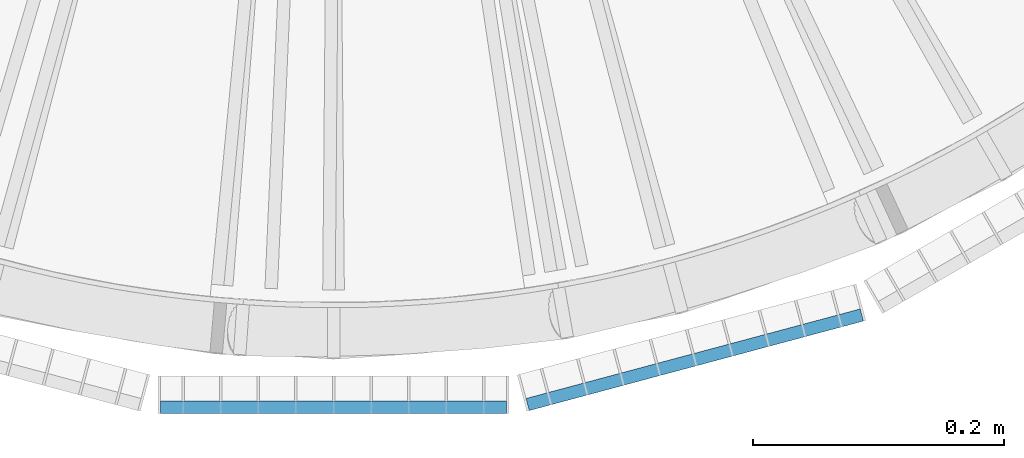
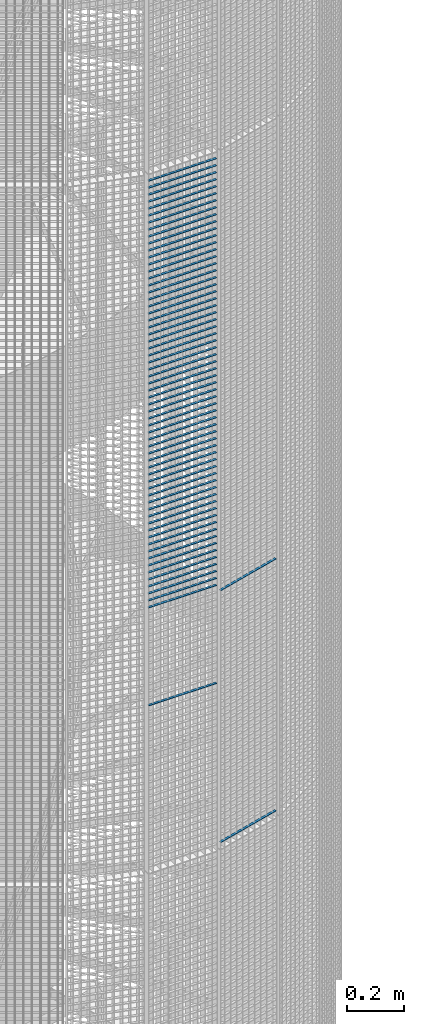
# One storey, part 163 of 1183: 65 beams, 2 elements without a shape of their own.
"""IFC2X3 building model written with IfcOpenShell, lengths in millimetres."""

from ifc_helpers import new_model, si_unit, frame, origin_with_axes, origin_2d_with_axis, place, context, subcontext, project, spatial, rectangle, extrude, material, type_object, element, aggregate, save


model = new_model("IFC2X3")

# Units and contexts
model_context = context("Model", 3, precision=1e-05, world=origin_with_axes())
body_context = subcontext(model_context, "Body", "Model", "MODEL_VIEW")
ifc_project = project(units=[si_unit("LENGTHUNIT", "METRE", prefix="MILLI"), si_unit("AREAUNIT", "SQUARE_METRE"), si_unit("VOLUMEUNIT", "CUBIC_METRE"), si_unit("MASSUNIT", "GRAM", prefix="KILO"), si_unit("TIMEUNIT", "SECOND"), si_unit("PLANEANGLEUNIT", "RADIAN"), si_unit("SOLIDANGLEUNIT", "STERADIAN"), si_unit("THERMODYNAMICTEMPERATUREUNIT", "DEGREE_CELSIUS"), si_unit("LUMINOUSINTENSITYUNIT", "LUMEN")], contexts=[model_context])

# Site, building, storey
site_placement = place(None, origin_with_axes())
site = spatial("IfcSite", under=ifc_project, at=site_placement, Name="Undefined", CompositionType="ELEMENT")
building_placement = place(site_placement, origin_with_axes())
building = spatial("IfcBuilding", under=site, at=building_placement, Name="Undefined", CompositionType="ELEMENT")
storey_placement = place(building_placement, origin_with_axes())
storey = spatial("IfcBuildingStorey", under=building, at=storey_placement, Name="Undefined", CompositionType="ELEMENT", Elevation=0.0)

# Assembly, beams
assembly_1_placement = place(storey_placement, origin_with_axes())
assembly_1 = element("IfcElementAssembly", 1, at=assembly_1_placement, inside=storey, Name="BORDURE", AssemblyPlace="NOTDEFINED", PredefinedType="NOTDEFINED")
ifc_material = material(Name="STEEL/S235JR")
beam_type = type_object("IfcBeamType", Name="PL2*10", PredefinedType="NOTDEFINED")
beam_1_placement = place(assembly_1_placement, frame((154.895926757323, -1111.25508286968, 4110.0), z_axis=(0.258819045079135, -0.965925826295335, 0.0), x_axis=(0.965925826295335, 0.258819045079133, 0.0)))
beam_1 = element("IfcBeam", 2, at=beam_1_placement, type_object=beam_type, material=ifc_material, Name="ENTRETOISE", context=body_context, shape_type="SweptSolid", body=[
    extrude(rectangle(XDim=2.0, YDim=10.0, at=origin_2d_with_axis()), frame((275.999999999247, 9.09494701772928e-13, 1.53210777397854e-14), z_axis=(-1.0, 0.0, 0.0), x_axis=(0.0, -1.0, 0.0)), (0.0, 0.0, 1.0), 276.0),
])
beam_2_placement = place(assembly_1_placement, frame((154.895926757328, -1111.25508286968, 3030.0), z_axis=(0.258819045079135, -0.965925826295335, 0.0), x_axis=(0.965925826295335, 0.258819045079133, 0.0)))
beam_2 = element("IfcBeam", 3, at=beam_2_placement, type_object=beam_type, material=ifc_material, Name="ENTRETOISE", context=body_context, shape_type="SweptSolid", body=[
    extrude(rectangle(XDim=2.0, YDim=10.0, at=origin_2d_with_axis()), frame((275.999999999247, 9.09494701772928e-13, 1.53210777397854e-14), z_axis=(-1.0, 0.0, 0.0), x_axis=(0.0, -1.0, 0.0)), (0.0, 0.0, 1.0), 276.0),
])
aggregate(assembly_1, [beam_1, beam_2])

assembly_2_placement = place(storey_placement, origin_with_axes())
assembly_2 = element("IfcElementAssembly", 4, at=assembly_2_placement, inside=storey, Name="BORDURE", AssemblyPlace="NOTDEFINED", PredefinedType="NOTDEFINED")
beam_3_placement = place(assembly_2_placement, frame((-137.996003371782, -1113.47999999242, 5970.0), z_axis=(0.0, -1.0, 0.0), x_axis=(1.0, 0.0, 0.0)))
beam_3 = element("IfcBeam", 5, at=beam_3_placement, type_object=beam_type, material=ifc_material, Name="ENTRETOISE", context=body_context, shape_type="SweptSolid", body=[
    extrude(rectangle(XDim=2.0, YDim=10.0, at=origin_2d_with_axis()), frame((275.999999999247, 9.09494701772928e-13, 1.53210777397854e-14), z_axis=(-1.0, 0.0, 0.0), x_axis=(0.0, -1.0, 0.0)), (0.0, 0.0, 1.0), 276.0),
])
beam_4_placement = place(assembly_2_placement, frame((-137.996003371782, -1113.47999999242, 5940.0), z_axis=(0.0, -1.0, 0.0), x_axis=(1.0, 0.0, 0.0)))
beam_4 = element("IfcBeam", 6, at=beam_4_placement, type_object=beam_type, material=ifc_material, Name="ENTRETOISE", context=body_context, shape_type="SweptSolid", body=[
    extrude(rectangle(XDim=2.0, YDim=10.0, at=origin_2d_with_axis()), frame((275.999999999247, 9.09494701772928e-13, 1.53210777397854e-14), z_axis=(-1.0, 0.0, 0.0), x_axis=(0.0, -1.0, 0.0)), (0.0, 0.0, 1.0), 276.0),
])
beam_5_placement = place(assembly_2_placement, frame((-137.996003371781, -1113.47999999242, 5910.0), z_axis=(0.0, -1.0, 0.0), x_axis=(1.0, 0.0, 0.0)))
beam_5 = element("IfcBeam", 7, at=beam_5_placement, type_object=beam_type, material=ifc_material, Name="ENTRETOISE", context=body_context, shape_type="SweptSolid", body=[
    extrude(rectangle(XDim=2.0, YDim=10.0, at=origin_2d_with_axis()), frame((275.999999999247, 9.09494701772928e-13, 1.53210777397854e-14), z_axis=(-1.0, 0.0, 0.0), x_axis=(0.0, -1.0, 0.0)), (0.0, 0.0, 1.0), 276.0),
])
beam_6_placement = place(assembly_2_placement, frame((-137.996003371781, -1113.47999999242, 5880.0), z_axis=(0.0, -1.0, 0.0), x_axis=(1.0, 0.0, 0.0)))
beam_6 = element("IfcBeam", 8, at=beam_6_placement, type_object=beam_type, material=ifc_material, Name="ENTRETOISE", context=body_context, shape_type="SweptSolid", body=[
    extrude(rectangle(XDim=2.0, YDim=10.0, at=origin_2d_with_axis()), frame((275.999999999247, 9.09494701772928e-13, 1.53210777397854e-14), z_axis=(-1.0, 0.0, 0.0), x_axis=(0.0, -1.0, 0.0)), (0.0, 0.0, 1.0), 276.0),
])
beam_7_placement = place(assembly_2_placement, frame((-137.996003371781, -1113.47999999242, 5850.0), z_axis=(0.0, -1.0, 0.0), x_axis=(1.0, 0.0, 0.0)))
beam_7 = element("IfcBeam", 9, at=beam_7_placement, type_object=beam_type, material=ifc_material, Name="ENTRETOISE", context=body_context, shape_type="SweptSolid", body=[
    extrude(rectangle(XDim=2.0, YDim=10.0, at=origin_2d_with_axis()), frame((275.999999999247, 9.09494701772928e-13, 1.53210777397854e-14), z_axis=(-1.0, 0.0, 0.0), x_axis=(0.0, -1.0, 0.0)), (0.0, 0.0, 1.0), 276.0),
])
beam_8_placement = place(assembly_2_placement, frame((-137.996003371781, -1113.47999999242, 5820.0), z_axis=(0.0, -1.0, 0.0), x_axis=(1.0, 0.0, 0.0)))
beam_8 = element("IfcBeam", 10, at=beam_8_placement, type_object=beam_type, material=ifc_material, Name="ENTRETOISE", context=body_context, shape_type="SweptSolid", body=[
    extrude(rectangle(XDim=2.0, YDim=10.0, at=origin_2d_with_axis()), frame((275.999999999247, 9.09494701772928e-13, 1.53210777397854e-14), z_axis=(-1.0, 0.0, 0.0), x_axis=(0.0, -1.0, 0.0)), (0.0, 0.0, 1.0), 276.0),
])
beam_9_placement = place(assembly_2_placement, frame((-137.996003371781, -1113.47999999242, 5790.0), z_axis=(0.0, -1.0, 0.0), x_axis=(1.0, 0.0, 0.0)))
beam_9 = element("IfcBeam", 11, at=beam_9_placement, type_object=beam_type, material=ifc_material, Name="ENTRETOISE", context=body_context, shape_type="SweptSolid", body=[
    extrude(rectangle(XDim=2.0, YDim=10.0, at=origin_2d_with_axis()), frame((275.999999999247, 9.09494701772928e-13, 1.53210777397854e-14), z_axis=(-1.0, 0.0, 0.0), x_axis=(0.0, -1.0, 0.0)), (0.0, 0.0, 1.0), 276.0),
])
beam_10_placement = place(assembly_2_placement, frame((-137.996003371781, -1113.47999999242, 5760.0), z_axis=(0.0, -1.0, 0.0), x_axis=(1.0, 0.0, 0.0)))
beam_10 = element("IfcBeam", 12, at=beam_10_placement, type_object=beam_type, material=ifc_material, Name="ENTRETOISE", context=body_context, shape_type="SweptSolid", body=[
    extrude(rectangle(XDim=2.0, YDim=10.0, at=origin_2d_with_axis()), frame((275.999999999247, 9.09494701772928e-13, 1.53210777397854e-14), z_axis=(-1.0, 0.0, 0.0), x_axis=(0.0, -1.0, 0.0)), (0.0, 0.0, 1.0), 276.0),
])
beam_11_placement = place(assembly_2_placement, frame((-137.996003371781, -1113.47999999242, 5730.0), z_axis=(0.0, -1.0, 0.0), x_axis=(1.0, 0.0, 0.0)))
beam_11 = element("IfcBeam", 13, at=beam_11_placement, type_object=beam_type, material=ifc_material, Name="ENTRETOISE", context=body_context, shape_type="SweptSolid", body=[
    extrude(rectangle(XDim=2.0, YDim=10.0, at=origin_2d_with_axis()), frame((275.999999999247, 9.09494701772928e-13, 1.53210777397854e-14), z_axis=(-1.0, 0.0, 0.0), x_axis=(0.0, -1.0, 0.0)), (0.0, 0.0, 1.0), 276.0),
])
beam_12_placement = place(assembly_2_placement, frame((-137.996003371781, -1113.47999999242, 5700.0), z_axis=(0.0, -1.0, 0.0), x_axis=(1.0, 0.0, 0.0)))
beam_12 = element("IfcBeam", 14, at=beam_12_placement, type_object=beam_type, material=ifc_material, Name="ENTRETOISE", context=body_context, shape_type="SweptSolid", body=[
    extrude(rectangle(XDim=2.0, YDim=10.0, at=origin_2d_with_axis()), frame((275.999999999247, 9.09494701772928e-13, 1.53210777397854e-14), z_axis=(-1.0, 0.0, 0.0), x_axis=(0.0, -1.0, 0.0)), (0.0, 0.0, 1.0), 276.0),
])
beam_13_placement = place(assembly_2_placement, frame((-137.996003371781, -1113.47999999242, 5670.0), z_axis=(0.0, -1.0, 0.0), x_axis=(1.0, 0.0, 0.0)))
beam_13 = element("IfcBeam", 15, at=beam_13_placement, type_object=beam_type, material=ifc_material, Name="ENTRETOISE", context=body_context, shape_type="SweptSolid", body=[
    extrude(rectangle(XDim=2.0, YDim=10.0, at=origin_2d_with_axis()), frame((275.999999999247, 9.09494701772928e-13, 1.53210777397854e-14), z_axis=(-1.0, 0.0, 0.0), x_axis=(0.0, -1.0, 0.0)), (0.0, 0.0, 1.0), 276.0),
])
beam_14_placement = place(assembly_2_placement, frame((-137.996003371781, -1113.47999999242, 5640.0), z_axis=(0.0, -1.0, 0.0), x_axis=(1.0, 0.0, 0.0)))
beam_14 = element("IfcBeam", 16, at=beam_14_placement, type_object=beam_type, material=ifc_material, Name="ENTRETOISE", context=body_context, shape_type="SweptSolid", body=[
    extrude(rectangle(XDim=2.0, YDim=10.0, at=origin_2d_with_axis()), frame((275.999999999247, 9.09494701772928e-13, 1.53210777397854e-14), z_axis=(-1.0, 0.0, 0.0), x_axis=(0.0, -1.0, 0.0)), (0.0, 0.0, 1.0), 276.0),
])
beam_15_placement = place(assembly_2_placement, frame((-137.99600337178, -1113.47999999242, 5610.0), z_axis=(0.0, -1.0, 0.0), x_axis=(1.0, 0.0, 0.0)))
beam_15 = element("IfcBeam", 17, at=beam_15_placement, type_object=beam_type, material=ifc_material, Name="ENTRETOISE", context=body_context, shape_type="SweptSolid", body=[
    extrude(rectangle(XDim=2.0, YDim=10.0, at=origin_2d_with_axis()), frame((275.999999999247, 9.09494701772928e-13, 1.53210777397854e-14), z_axis=(-1.0, 0.0, 0.0), x_axis=(0.0, -1.0, 0.0)), (0.0, 0.0, 1.0), 276.0),
])
beam_16_placement = place(assembly_2_placement, frame((-137.99600337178, -1113.47999999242, 5580.0), z_axis=(0.0, -1.0, 0.0), x_axis=(1.0, 0.0, 0.0)))
beam_16 = element("IfcBeam", 18, at=beam_16_placement, type_object=beam_type, material=ifc_material, Name="ENTRETOISE", context=body_context, shape_type="SweptSolid", body=[
    extrude(rectangle(XDim=2.0, YDim=10.0, at=origin_2d_with_axis()), frame((275.999999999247, 9.09494701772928e-13, 1.53210777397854e-14), z_axis=(-1.0, 0.0, 0.0), x_axis=(0.0, -1.0, 0.0)), (0.0, 0.0, 1.0), 276.0),
])
beam_17_placement = place(assembly_2_placement, frame((-137.99600337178, -1113.47999999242, 5550.0), z_axis=(0.0, -1.0, 0.0), x_axis=(1.0, 0.0, 0.0)))
beam_17 = element("IfcBeam", 19, at=beam_17_placement, type_object=beam_type, material=ifc_material, Name="ENTRETOISE", context=body_context, shape_type="SweptSolid", body=[
    extrude(rectangle(XDim=2.0, YDim=10.0, at=origin_2d_with_axis()), frame((275.999999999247, 9.09494701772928e-13, 1.53210777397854e-14), z_axis=(-1.0, 0.0, 0.0), x_axis=(0.0, -1.0, 0.0)), (0.0, 0.0, 1.0), 276.0),
])
beam_18_placement = place(assembly_2_placement, frame((-137.99600337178, -1113.47999999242, 5520.0), z_axis=(0.0, -1.0, 0.0), x_axis=(1.0, 0.0, 0.0)))
beam_18 = element("IfcBeam", 20, at=beam_18_placement, type_object=beam_type, material=ifc_material, Name="ENTRETOISE", context=body_context, shape_type="SweptSolid", body=[
    extrude(rectangle(XDim=2.0, YDim=10.0, at=origin_2d_with_axis()), frame((275.999999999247, 9.09494701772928e-13, 1.53210777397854e-14), z_axis=(-1.0, 0.0, 0.0), x_axis=(0.0, -1.0, 0.0)), (0.0, 0.0, 1.0), 276.0),
])
beam_19_placement = place(assembly_2_placement, frame((-137.99600337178, -1113.47999999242, 5490.0), z_axis=(0.0, -1.0, 0.0), x_axis=(1.0, 0.0, 0.0)))
beam_19 = element("IfcBeam", 21, at=beam_19_placement, type_object=beam_type, material=ifc_material, Name="ENTRETOISE", context=body_context, shape_type="SweptSolid", body=[
    extrude(rectangle(XDim=2.0, YDim=10.0, at=origin_2d_with_axis()), frame((275.999999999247, 9.09494701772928e-13, 1.53210777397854e-14), z_axis=(-1.0, 0.0, 0.0), x_axis=(0.0, -1.0, 0.0)), (0.0, 0.0, 1.0), 276.0),
])
beam_20_placement = place(assembly_2_placement, frame((-137.99600337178, -1113.47999999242, 5460.0), z_axis=(0.0, -1.0, 0.0), x_axis=(1.0, 0.0, 0.0)))
beam_20 = element("IfcBeam", 22, at=beam_20_placement, type_object=beam_type, material=ifc_material, Name="ENTRETOISE", context=body_context, shape_type="SweptSolid", body=[
    extrude(rectangle(XDim=2.0, YDim=10.0, at=origin_2d_with_axis()), frame((275.999999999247, 9.09494701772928e-13, 1.53210777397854e-14), z_axis=(-1.0, 0.0, 0.0), x_axis=(0.0, -1.0, 0.0)), (0.0, 0.0, 1.0), 276.0),
])
beam_21_placement = place(assembly_2_placement, frame((-137.99600337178, -1113.47999999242, 5430.0), z_axis=(0.0, -1.0, 0.0), x_axis=(1.0, 0.0, 0.0)))
beam_21 = element("IfcBeam", 23, at=beam_21_placement, type_object=beam_type, material=ifc_material, Name="ENTRETOISE", context=body_context, shape_type="SweptSolid", body=[
    extrude(rectangle(XDim=2.0, YDim=10.0, at=origin_2d_with_axis()), frame((275.999999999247, 9.09494701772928e-13, 1.53210777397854e-14), z_axis=(-1.0, 0.0, 0.0), x_axis=(0.0, -1.0, 0.0)), (0.0, 0.0, 1.0), 276.0),
])
beam_22_placement = place(assembly_2_placement, frame((-137.99600337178, -1113.47999999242, 5400.0), z_axis=(0.0, -1.0, 0.0), x_axis=(1.0, 0.0, 0.0)))
beam_22 = element("IfcBeam", 24, at=beam_22_placement, type_object=beam_type, material=ifc_material, Name="ENTRETOISE", context=body_context, shape_type="SweptSolid", body=[
    extrude(rectangle(XDim=2.0, YDim=10.0, at=origin_2d_with_axis()), frame((275.999999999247, 9.09494701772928e-13, 1.53210777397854e-14), z_axis=(-1.0, 0.0, 0.0), x_axis=(0.0, -1.0, 0.0)), (0.0, 0.0, 1.0), 276.0),
])
beam_23_placement = place(assembly_2_placement, frame((-137.99600337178, -1113.47999999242, 5370.0), z_axis=(0.0, -1.0, 0.0), x_axis=(1.0, 0.0, 0.0)))
beam_23 = element("IfcBeam", 25, at=beam_23_placement, type_object=beam_type, material=ifc_material, Name="ENTRETOISE", context=body_context, shape_type="SweptSolid", body=[
    extrude(rectangle(XDim=2.0, YDim=10.0, at=origin_2d_with_axis()), frame((275.999999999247, 9.09494701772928e-13, 1.53210777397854e-14), z_axis=(-1.0, 0.0, 0.0), x_axis=(0.0, -1.0, 0.0)), (0.0, 0.0, 1.0), 276.0),
])
beam_24_placement = place(assembly_2_placement, frame((-137.99600337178, -1113.47999999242, 5340.0), z_axis=(0.0, -1.0, 0.0), x_axis=(1.0, 0.0, 0.0)))
beam_24 = element("IfcBeam", 26, at=beam_24_placement, type_object=beam_type, material=ifc_material, Name="ENTRETOISE", context=body_context, shape_type="SweptSolid", body=[
    extrude(rectangle(XDim=2.0, YDim=10.0, at=origin_2d_with_axis()), frame((275.999999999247, 9.09494701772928e-13, 1.53210777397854e-14), z_axis=(-1.0, 0.0, 0.0), x_axis=(0.0, -1.0, 0.0)), (0.0, 0.0, 1.0), 276.0),
])
beam_25_placement = place(assembly_2_placement, frame((-137.996003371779, -1113.47999999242, 5310.0), z_axis=(0.0, -1.0, 0.0), x_axis=(1.0, 0.0, 0.0)))
beam_25 = element("IfcBeam", 27, at=beam_25_placement, type_object=beam_type, material=ifc_material, Name="ENTRETOISE", context=body_context, shape_type="SweptSolid", body=[
    extrude(rectangle(XDim=2.0, YDim=10.0, at=origin_2d_with_axis()), frame((275.999999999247, 9.09494701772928e-13, 1.53210777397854e-14), z_axis=(-1.0, 0.0, 0.0), x_axis=(0.0, -1.0, 0.0)), (0.0, 0.0, 1.0), 276.0),
])
beam_26_placement = place(assembly_2_placement, frame((-137.996003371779, -1113.47999999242, 5280.0), z_axis=(0.0, -1.0, 0.0), x_axis=(1.0, 0.0, 0.0)))
beam_26 = element("IfcBeam", 28, at=beam_26_placement, type_object=beam_type, material=ifc_material, Name="ENTRETOISE", context=body_context, shape_type="SweptSolid", body=[
    extrude(rectangle(XDim=2.0, YDim=10.0, at=origin_2d_with_axis()), frame((275.999999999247, 9.09494701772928e-13, 1.53210777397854e-14), z_axis=(-1.0, 0.0, 0.0), x_axis=(0.0, -1.0, 0.0)), (0.0, 0.0, 1.0), 276.0),
])
beam_27_placement = place(assembly_2_placement, frame((-137.996003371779, -1113.47999999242, 5250.0), z_axis=(0.0, -1.0, 0.0), x_axis=(1.0, 0.0, 0.0)))
beam_27 = element("IfcBeam", 29, at=beam_27_placement, type_object=beam_type, material=ifc_material, Name="ENTRETOISE", context=body_context, shape_type="SweptSolid", body=[
    extrude(rectangle(XDim=2.0, YDim=10.0, at=origin_2d_with_axis()), frame((275.999999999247, 9.09494701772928e-13, 1.53210777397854e-14), z_axis=(-1.0, 0.0, 0.0), x_axis=(0.0, -1.0, 0.0)), (0.0, 0.0, 1.0), 276.0),
])
beam_28_placement = place(assembly_2_placement, frame((-137.996003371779, -1113.47999999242, 5220.0), z_axis=(0.0, -1.0, 0.0), x_axis=(1.0, 0.0, 0.0)))
beam_28 = element("IfcBeam", 30, at=beam_28_placement, type_object=beam_type, material=ifc_material, Name="ENTRETOISE", context=body_context, shape_type="SweptSolid", body=[
    extrude(rectangle(XDim=2.0, YDim=10.0, at=origin_2d_with_axis()), frame((275.999999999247, 9.09494701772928e-13, 1.53210777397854e-14), z_axis=(-1.0, 0.0, 0.0), x_axis=(0.0, -1.0, 0.0)), (0.0, 0.0, 1.0), 276.0),
])
beam_29_placement = place(assembly_2_placement, frame((-137.996003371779, -1113.47999999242, 5190.0), z_axis=(0.0, -1.0, 0.0), x_axis=(1.0, 0.0, 0.0)))
beam_29 = element("IfcBeam", 31, at=beam_29_placement, type_object=beam_type, material=ifc_material, Name="ENTRETOISE", context=body_context, shape_type="SweptSolid", body=[
    extrude(rectangle(XDim=2.0, YDim=10.0, at=origin_2d_with_axis()), frame((275.999999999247, 9.09494701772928e-13, 1.53210777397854e-14), z_axis=(-1.0, 0.0, 0.0), x_axis=(0.0, -1.0, 0.0)), (0.0, 0.0, 1.0), 276.0),
])
beam_30_placement = place(assembly_2_placement, frame((-137.996003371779, -1113.47999999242, 5160.0), z_axis=(0.0, -1.0, 0.0), x_axis=(1.0, 0.0, 0.0)))
beam_30 = element("IfcBeam", 32, at=beam_30_placement, type_object=beam_type, material=ifc_material, Name="ENTRETOISE", context=body_context, shape_type="SweptSolid", body=[
    extrude(rectangle(XDim=2.0, YDim=10.0, at=origin_2d_with_axis()), frame((275.999999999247, 9.09494701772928e-13, 1.53210777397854e-14), z_axis=(-1.0, 0.0, 0.0), x_axis=(0.0, -1.0, 0.0)), (0.0, 0.0, 1.0), 276.0),
])
beam_31_placement = place(assembly_2_placement, frame((-137.996003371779, -1113.47999999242, 5130.0), z_axis=(0.0, -1.0, 0.0), x_axis=(1.0, 0.0, 0.0)))
beam_31 = element("IfcBeam", 33, at=beam_31_placement, type_object=beam_type, material=ifc_material, Name="ENTRETOISE", context=body_context, shape_type="SweptSolid", body=[
    extrude(rectangle(XDim=2.0, YDim=10.0, at=origin_2d_with_axis()), frame((275.999999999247, 9.09494701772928e-13, 1.53210777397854e-14), z_axis=(-1.0, 0.0, 0.0), x_axis=(0.0, -1.0, 0.0)), (0.0, 0.0, 1.0), 276.0),
])
beam_32_placement = place(assembly_2_placement, frame((-137.996003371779, -1113.47999999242, 5100.0), z_axis=(0.0, -1.0, 0.0), x_axis=(1.0, 0.0, 0.0)))
beam_32 = element("IfcBeam", 34, at=beam_32_placement, type_object=beam_type, material=ifc_material, Name="ENTRETOISE", context=body_context, shape_type="SweptSolid", body=[
    extrude(rectangle(XDim=2.0, YDim=10.0, at=origin_2d_with_axis()), frame((275.999999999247, 9.09494701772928e-13, 1.53210777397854e-14), z_axis=(-1.0, 0.0, 0.0), x_axis=(0.0, -1.0, 0.0)), (0.0, 0.0, 1.0), 276.0),
])
beam_33_placement = place(assembly_2_placement, frame((-137.996003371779, -1113.47999999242, 5070.0), z_axis=(0.0, -1.0, 0.0), x_axis=(1.0, 0.0, 0.0)))
beam_33 = element("IfcBeam", 35, at=beam_33_placement, type_object=beam_type, material=ifc_material, Name="ENTRETOISE", context=body_context, shape_type="SweptSolid", body=[
    extrude(rectangle(XDim=2.0, YDim=10.0, at=origin_2d_with_axis()), frame((275.999999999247, 9.09494701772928e-13, 1.53210777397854e-14), z_axis=(-1.0, 0.0, 0.0), x_axis=(0.0, -1.0, 0.0)), (0.0, 0.0, 1.0), 276.0),
])
beam_34_placement = place(assembly_2_placement, frame((-137.996003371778, -1113.47999999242, 5040.0), z_axis=(0.0, -1.0, 0.0), x_axis=(1.0, 0.0, 0.0)))
beam_34 = element("IfcBeam", 36, at=beam_34_placement, type_object=beam_type, material=ifc_material, Name="ENTRETOISE", context=body_context, shape_type="SweptSolid", body=[
    extrude(rectangle(XDim=2.0, YDim=10.0, at=origin_2d_with_axis()), frame((275.999999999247, 9.09494701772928e-13, 1.53210777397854e-14), z_axis=(-1.0, 0.0, 0.0), x_axis=(0.0, -1.0, 0.0)), (0.0, 0.0, 1.0), 276.0),
])
beam_35_placement = place(assembly_2_placement, frame((-137.996003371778, -1113.47999999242, 5010.0), z_axis=(0.0, -1.0, 0.0), x_axis=(1.0, 0.0, 0.0)))
beam_35 = element("IfcBeam", 37, at=beam_35_placement, type_object=beam_type, material=ifc_material, Name="ENTRETOISE", context=body_context, shape_type="SweptSolid", body=[
    extrude(rectangle(XDim=2.0, YDim=10.0, at=origin_2d_with_axis()), frame((275.999999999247, 9.09494701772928e-13, 1.53210777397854e-14), z_axis=(-1.0, 0.0, 0.0), x_axis=(0.0, -1.0, 0.0)), (0.0, 0.0, 1.0), 276.0),
])
beam_36_placement = place(assembly_2_placement, frame((-137.996003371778, -1113.47999999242, 4980.0), z_axis=(0.0, -1.0, 0.0), x_axis=(1.0, 0.0, 0.0)))
beam_36 = element("IfcBeam", 38, at=beam_36_placement, type_object=beam_type, material=ifc_material, Name="ENTRETOISE", context=body_context, shape_type="SweptSolid", body=[
    extrude(rectangle(XDim=2.0, YDim=10.0, at=origin_2d_with_axis()), frame((275.999999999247, 9.09494701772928e-13, 1.53210777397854e-14), z_axis=(-1.0, 0.0, 0.0), x_axis=(0.0, -1.0, 0.0)), (0.0, 0.0, 1.0), 276.0),
])
beam_37_placement = place(assembly_2_placement, frame((-137.996003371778, -1113.47999999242, 4950.0), z_axis=(0.0, -1.0, 0.0), x_axis=(1.0, 0.0, 0.0)))
beam_37 = element("IfcBeam", 39, at=beam_37_placement, type_object=beam_type, material=ifc_material, Name="ENTRETOISE", context=body_context, shape_type="SweptSolid", body=[
    extrude(rectangle(XDim=2.0, YDim=10.0, at=origin_2d_with_axis()), frame((275.999999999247, 9.09494701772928e-13, 1.53210777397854e-14), z_axis=(-1.0, 0.0, 0.0), x_axis=(0.0, -1.0, 0.0)), (0.0, 0.0, 1.0), 276.0),
])
beam_38_placement = place(assembly_2_placement, frame((-137.996003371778, -1113.47999999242, 4920.0), z_axis=(0.0, -1.0, 0.0), x_axis=(1.0, 0.0, 0.0)))
beam_38 = element("IfcBeam", 40, at=beam_38_placement, type_object=beam_type, material=ifc_material, Name="ENTRETOISE", context=body_context, shape_type="SweptSolid", body=[
    extrude(rectangle(XDim=2.0, YDim=10.0, at=origin_2d_with_axis()), frame((275.999999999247, 9.09494701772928e-13, 1.53210777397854e-14), z_axis=(-1.0, 0.0, 0.0), x_axis=(0.0, -1.0, 0.0)), (0.0, 0.0, 1.0), 276.0),
])
beam_39_placement = place(assembly_2_placement, frame((-137.996003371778, -1113.47999999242, 4890.0), z_axis=(0.0, -1.0, 0.0), x_axis=(1.0, 0.0, 0.0)))
beam_39 = element("IfcBeam", 41, at=beam_39_placement, type_object=beam_type, material=ifc_material, Name="ENTRETOISE", context=body_context, shape_type="SweptSolid", body=[
    extrude(rectangle(XDim=2.0, YDim=10.0, at=origin_2d_with_axis()), frame((275.999999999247, 9.09494701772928e-13, 1.53210777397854e-14), z_axis=(-1.0, 0.0, 0.0), x_axis=(0.0, -1.0, 0.0)), (0.0, 0.0, 1.0), 276.0),
])
beam_40_placement = place(assembly_2_placement, frame((-137.996003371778, -1113.47999999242, 4860.0), z_axis=(0.0, -1.0, 0.0), x_axis=(1.0, 0.0, 0.0)))
beam_40 = element("IfcBeam", 42, at=beam_40_placement, type_object=beam_type, material=ifc_material, Name="ENTRETOISE", context=body_context, shape_type="SweptSolid", body=[
    extrude(rectangle(XDim=2.0, YDim=10.0, at=origin_2d_with_axis()), frame((275.999999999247, 9.09494701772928e-13, 1.53210777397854e-14), z_axis=(-1.0, 0.0, 0.0), x_axis=(0.0, -1.0, 0.0)), (0.0, 0.0, 1.0), 276.0),
])
beam_41_placement = place(assembly_2_placement, frame((-137.996003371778, -1113.47999999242, 4830.0), z_axis=(0.0, -1.0, 0.0), x_axis=(1.0, 0.0, 0.0)))
beam_41 = element("IfcBeam", 43, at=beam_41_placement, type_object=beam_type, material=ifc_material, Name="ENTRETOISE", context=body_context, shape_type="SweptSolid", body=[
    extrude(rectangle(XDim=2.0, YDim=10.0, at=origin_2d_with_axis()), frame((275.999999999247, 9.09494701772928e-13, 1.53210777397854e-14), z_axis=(-1.0, 0.0, 0.0), x_axis=(0.0, -1.0, 0.0)), (0.0, 0.0, 1.0), 276.0),
])
beam_42_placement = place(assembly_2_placement, frame((-137.996003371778, -1113.47999999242, 4800.0), z_axis=(0.0, -1.0, 0.0), x_axis=(1.0, 0.0, 0.0)))
beam_42 = element("IfcBeam", 44, at=beam_42_placement, type_object=beam_type, material=ifc_material, Name="ENTRETOISE", context=body_context, shape_type="SweptSolid", body=[
    extrude(rectangle(XDim=2.0, YDim=10.0, at=origin_2d_with_axis()), frame((275.999999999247, 9.09494701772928e-13, 1.53210777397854e-14), z_axis=(-1.0, 0.0, 0.0), x_axis=(0.0, -1.0, 0.0)), (0.0, 0.0, 1.0), 276.0),
])
beam_43_placement = place(assembly_2_placement, frame((-137.996003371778, -1113.47999999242, 4770.0), z_axis=(0.0, -1.0, 0.0), x_axis=(1.0, 0.0, 0.0)))
beam_43 = element("IfcBeam", 45, at=beam_43_placement, type_object=beam_type, material=ifc_material, Name="ENTRETOISE", context=body_context, shape_type="SweptSolid", body=[
    extrude(rectangle(XDim=2.0, YDim=10.0, at=origin_2d_with_axis()), frame((275.999999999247, 9.09494701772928e-13, 1.53210777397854e-14), z_axis=(-1.0, 0.0, 0.0), x_axis=(0.0, -1.0, 0.0)), (0.0, 0.0, 1.0), 276.0),
])
beam_44_placement = place(assembly_2_placement, frame((-137.996003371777, -1113.47999999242, 4740.0), z_axis=(0.0, -1.0, 0.0), x_axis=(1.0, 0.0, 0.0)))
beam_44 = element("IfcBeam", 46, at=beam_44_placement, type_object=beam_type, material=ifc_material, Name="ENTRETOISE", context=body_context, shape_type="SweptSolid", body=[
    extrude(rectangle(XDim=2.0, YDim=10.0, at=origin_2d_with_axis()), frame((275.999999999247, 9.09494701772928e-13, 1.53210777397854e-14), z_axis=(-1.0, 0.0, 0.0), x_axis=(0.0, -1.0, 0.0)), (0.0, 0.0, 1.0), 276.0),
])
beam_45_placement = place(assembly_2_placement, frame((-137.996003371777, -1113.47999999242, 4710.0), z_axis=(0.0, -1.0, 0.0), x_axis=(1.0, 0.0, 0.0)))
beam_45 = element("IfcBeam", 47, at=beam_45_placement, type_object=beam_type, material=ifc_material, Name="ENTRETOISE", context=body_context, shape_type="SweptSolid", body=[
    extrude(rectangle(XDim=2.0, YDim=10.0, at=origin_2d_with_axis()), frame((275.999999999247, 9.09494701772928e-13, 1.53210777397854e-14), z_axis=(-1.0, 0.0, 0.0), x_axis=(0.0, -1.0, 0.0)), (0.0, 0.0, 1.0), 276.0),
])
beam_46_placement = place(assembly_2_placement, frame((-137.996003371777, -1113.47999999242, 4680.0), z_axis=(0.0, -1.0, 0.0), x_axis=(1.0, 0.0, 0.0)))
beam_46 = element("IfcBeam", 48, at=beam_46_placement, type_object=beam_type, material=ifc_material, Name="ENTRETOISE", context=body_context, shape_type="SweptSolid", body=[
    extrude(rectangle(XDim=2.0, YDim=10.0, at=origin_2d_with_axis()), frame((275.999999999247, 9.09494701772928e-13, 1.53210777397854e-14), z_axis=(-1.0, 0.0, 0.0), x_axis=(0.0, -1.0, 0.0)), (0.0, 0.0, 1.0), 276.0),
])
beam_47_placement = place(assembly_2_placement, frame((-137.996003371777, -1113.47999999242, 4650.0), z_axis=(0.0, -1.0, 0.0), x_axis=(1.0, 0.0, 0.0)))
beam_47 = element("IfcBeam", 49, at=beam_47_placement, type_object=beam_type, material=ifc_material, Name="ENTRETOISE", context=body_context, shape_type="SweptSolid", body=[
    extrude(rectangle(XDim=2.0, YDim=10.0, at=origin_2d_with_axis()), frame((275.999999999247, 9.09494701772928e-13, 1.53210777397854e-14), z_axis=(-1.0, 0.0, 0.0), x_axis=(0.0, -1.0, 0.0)), (0.0, 0.0, 1.0), 276.0),
])
beam_48_placement = place(assembly_2_placement, frame((-137.996003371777, -1113.47999999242, 4620.0), z_axis=(0.0, -1.0, 0.0), x_axis=(1.0, 0.0, 0.0)))
beam_48 = element("IfcBeam", 50, at=beam_48_placement, type_object=beam_type, material=ifc_material, Name="ENTRETOISE", context=body_context, shape_type="SweptSolid", body=[
    extrude(rectangle(XDim=2.0, YDim=10.0, at=origin_2d_with_axis()), frame((275.999999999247, 9.09494701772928e-13, 1.53210777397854e-14), z_axis=(-1.0, 0.0, 0.0), x_axis=(0.0, -1.0, 0.0)), (0.0, 0.0, 1.0), 276.0),
])
beam_49_placement = place(assembly_2_placement, frame((-137.996003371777, -1113.47999999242, 4590.0), z_axis=(0.0, -1.0, 0.0), x_axis=(1.0, 0.0, 0.0)))
beam_49 = element("IfcBeam", 51, at=beam_49_placement, type_object=beam_type, material=ifc_material, Name="ENTRETOISE", context=body_context, shape_type="SweptSolid", body=[
    extrude(rectangle(XDim=2.0, YDim=10.0, at=origin_2d_with_axis()), frame((275.999999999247, 9.09494701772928e-13, 1.53210777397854e-14), z_axis=(-1.0, 0.0, 0.0), x_axis=(0.0, -1.0, 0.0)), (0.0, 0.0, 1.0), 276.0),
])
beam_50_placement = place(assembly_2_placement, frame((-137.996003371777, -1113.47999999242, 4560.0), z_axis=(0.0, -1.0, 0.0), x_axis=(1.0, 0.0, 0.0)))
beam_50 = element("IfcBeam", 52, at=beam_50_placement, type_object=beam_type, material=ifc_material, Name="ENTRETOISE", context=body_context, shape_type="SweptSolid", body=[
    extrude(rectangle(XDim=2.0, YDim=10.0, at=origin_2d_with_axis()), frame((275.999999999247, 9.09494701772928e-13, 1.53210777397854e-14), z_axis=(-1.0, 0.0, 0.0), x_axis=(0.0, -1.0, 0.0)), (0.0, 0.0, 1.0), 276.0),
])
beam_51_placement = place(assembly_2_placement, frame((-137.996003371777, -1113.47999999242, 4530.0), z_axis=(0.0, -1.0, 0.0), x_axis=(1.0, 0.0, 0.0)))
beam_51 = element("IfcBeam", 53, at=beam_51_placement, type_object=beam_type, material=ifc_material, Name="ENTRETOISE", context=body_context, shape_type="SweptSolid", body=[
    extrude(rectangle(XDim=2.0, YDim=10.0, at=origin_2d_with_axis()), frame((275.999999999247, 9.09494701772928e-13, 1.53210777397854e-14), z_axis=(-1.0, 0.0, 0.0), x_axis=(0.0, -1.0, 0.0)), (0.0, 0.0, 1.0), 276.0),
])
beam_52_placement = place(assembly_2_placement, frame((-137.996003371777, -1113.47999999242, 4500.0), z_axis=(0.0, -1.0, 0.0), x_axis=(1.0, 0.0, 0.0)))
beam_52 = element("IfcBeam", 54, at=beam_52_placement, type_object=beam_type, material=ifc_material, Name="ENTRETOISE", context=body_context, shape_type="SweptSolid", body=[
    extrude(rectangle(XDim=2.0, YDim=10.0, at=origin_2d_with_axis()), frame((275.999999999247, 9.09494701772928e-13, 1.53210777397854e-14), z_axis=(-1.0, 0.0, 0.0), x_axis=(0.0, -1.0, 0.0)), (0.0, 0.0, 1.0), 276.0),
])
beam_53_placement = place(assembly_2_placement, frame((-137.996003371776, -1113.47999999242, 4470.0), z_axis=(0.0, -1.0, 0.0), x_axis=(1.0, 0.0, 0.0)))
beam_53 = element("IfcBeam", 55, at=beam_53_placement, type_object=beam_type, material=ifc_material, Name="ENTRETOISE", context=body_context, shape_type="SweptSolid", body=[
    extrude(rectangle(XDim=2.0, YDim=10.0, at=origin_2d_with_axis()), frame((275.999999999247, 9.09494701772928e-13, 1.53210777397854e-14), z_axis=(-1.0, 0.0, 0.0), x_axis=(0.0, -1.0, 0.0)), (0.0, 0.0, 1.0), 276.0),
])
beam_54_placement = place(assembly_2_placement, frame((-137.996003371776, -1113.47999999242, 4440.0), z_axis=(0.0, -1.0, 0.0), x_axis=(1.0, 0.0, 0.0)))
beam_54 = element("IfcBeam", 56, at=beam_54_placement, type_object=beam_type, material=ifc_material, Name="ENTRETOISE", context=body_context, shape_type="SweptSolid", body=[
    extrude(rectangle(XDim=2.0, YDim=10.0, at=origin_2d_with_axis()), frame((275.999999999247, 9.09494701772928e-13, 1.53210777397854e-14), z_axis=(-1.0, 0.0, 0.0), x_axis=(0.0, -1.0, 0.0)), (0.0, 0.0, 1.0), 276.0),
])
beam_55_placement = place(assembly_2_placement, frame((-137.996003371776, -1113.47999999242, 4410.0), z_axis=(0.0, -1.0, 0.0), x_axis=(1.0, 0.0, 0.0)))
beam_55 = element("IfcBeam", 57, at=beam_55_placement, type_object=beam_type, material=ifc_material, Name="ENTRETOISE", context=body_context, shape_type="SweptSolid", body=[
    extrude(rectangle(XDim=2.0, YDim=10.0, at=origin_2d_with_axis()), frame((275.999999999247, 9.09494701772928e-13, 1.53210777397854e-14), z_axis=(-1.0, 0.0, 0.0), x_axis=(0.0, -1.0, 0.0)), (0.0, 0.0, 1.0), 276.0),
])
beam_56_placement = place(assembly_2_placement, frame((-137.996003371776, -1113.47999999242, 4380.0), z_axis=(0.0, -1.0, 0.0), x_axis=(1.0, 0.0, 0.0)))
beam_56 = element("IfcBeam", 58, at=beam_56_placement, type_object=beam_type, material=ifc_material, Name="ENTRETOISE", context=body_context, shape_type="SweptSolid", body=[
    extrude(rectangle(XDim=2.0, YDim=10.0, at=origin_2d_with_axis()), frame((275.999999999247, 9.09494701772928e-13, 1.53210777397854e-14), z_axis=(-1.0, 0.0, 0.0), x_axis=(0.0, -1.0, 0.0)), (0.0, 0.0, 1.0), 276.0),
])
beam_57_placement = place(assembly_2_placement, frame((-137.996003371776, -1113.47999999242, 4350.0), z_axis=(0.0, -1.0, 0.0), x_axis=(1.0, 0.0, 0.0)))
beam_57 = element("IfcBeam", 59, at=beam_57_placement, type_object=beam_type, material=ifc_material, Name="ENTRETOISE", context=body_context, shape_type="SweptSolid", body=[
    extrude(rectangle(XDim=2.0, YDim=10.0, at=origin_2d_with_axis()), frame((275.999999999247, 9.09494701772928e-13, 1.53210777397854e-14), z_axis=(-1.0, 0.0, 0.0), x_axis=(0.0, -1.0, 0.0)), (0.0, 0.0, 1.0), 276.0),
])
beam_58_placement = place(assembly_2_placement, frame((-137.996003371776, -1113.47999999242, 4320.0), z_axis=(0.0, -1.0, 0.0), x_axis=(1.0, 0.0, 0.0)))
beam_58 = element("IfcBeam", 60, at=beam_58_placement, type_object=beam_type, material=ifc_material, Name="ENTRETOISE", context=body_context, shape_type="SweptSolid", body=[
    extrude(rectangle(XDim=2.0, YDim=10.0, at=origin_2d_with_axis()), frame((275.999999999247, 9.09494701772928e-13, 1.53210777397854e-14), z_axis=(-1.0, 0.0, 0.0), x_axis=(0.0, -1.0, 0.0)), (0.0, 0.0, 1.0), 276.0),
])
beam_59_placement = place(assembly_2_placement, frame((-137.996003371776, -1113.47999999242, 4290.0), z_axis=(0.0, -1.0, 0.0), x_axis=(1.0, 0.0, 0.0)))
beam_59 = element("IfcBeam", 61, at=beam_59_placement, type_object=beam_type, material=ifc_material, Name="ENTRETOISE", context=body_context, shape_type="SweptSolid", body=[
    extrude(rectangle(XDim=2.0, YDim=10.0, at=origin_2d_with_axis()), frame((275.999999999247, 9.09494701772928e-13, 1.53210777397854e-14), z_axis=(-1.0, 0.0, 0.0), x_axis=(0.0, -1.0, 0.0)), (0.0, 0.0, 1.0), 276.0),
])
beam_60_placement = place(assembly_2_placement, frame((-137.996003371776, -1113.47999999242, 4260.0), z_axis=(0.0, -1.0, 0.0), x_axis=(1.0, 0.0, 0.0)))
beam_60 = element("IfcBeam", 62, at=beam_60_placement, type_object=beam_type, material=ifc_material, Name="ENTRETOISE", context=body_context, shape_type="SweptSolid", body=[
    extrude(rectangle(XDim=2.0, YDim=10.0, at=origin_2d_with_axis()), frame((275.999999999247, 9.09494701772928e-13, 1.53210777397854e-14), z_axis=(-1.0, 0.0, 0.0), x_axis=(0.0, -1.0, 0.0)), (0.0, 0.0, 1.0), 276.0),
])
beam_61_placement = place(assembly_2_placement, frame((-137.996003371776, -1113.47999999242, 4230.0), z_axis=(0.0, -1.0, 0.0), x_axis=(1.0, 0.0, 0.0)))
beam_61 = element("IfcBeam", 63, at=beam_61_placement, type_object=beam_type, material=ifc_material, Name="ENTRETOISE", context=body_context, shape_type="SweptSolid", body=[
    extrude(rectangle(XDim=2.0, YDim=10.0, at=origin_2d_with_axis()), frame((275.999999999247, 9.09494701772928e-13, 1.53210777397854e-14), z_axis=(-1.0, 0.0, 0.0), x_axis=(0.0, -1.0, 0.0)), (0.0, 0.0, 1.0), 276.0),
])
beam_62_placement = place(assembly_2_placement, frame((-137.996003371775, -1113.47999999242, 4200.0), z_axis=(0.0, -1.0, 0.0), x_axis=(1.0, 0.0, 0.0)))
beam_62 = element("IfcBeam", 64, at=beam_62_placement, type_object=beam_type, material=ifc_material, Name="ENTRETOISE", context=body_context, shape_type="SweptSolid", body=[
    extrude(rectangle(XDim=2.0, YDim=10.0, at=origin_2d_with_axis()), frame((275.999999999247, 9.09494701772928e-13, 1.53210777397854e-14), z_axis=(-1.0, 0.0, 0.0), x_axis=(0.0, -1.0, 0.0)), (0.0, 0.0, 1.0), 276.0),
])
beam_63_placement = place(assembly_2_placement, frame((-137.996003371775, -1113.47999999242, 4170.0), z_axis=(0.0, -1.0, 0.0), x_axis=(1.0, 0.0, 0.0)))
beam_63 = element("IfcBeam", 65, at=beam_63_placement, type_object=beam_type, material=ifc_material, Name="ENTRETOISE", context=body_context, shape_type="SweptSolid", body=[
    extrude(rectangle(XDim=2.0, YDim=10.0, at=origin_2d_with_axis()), frame((275.999999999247, 9.09494701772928e-13, 1.53210777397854e-14), z_axis=(-1.0, 0.0, 0.0), x_axis=(0.0, -1.0, 0.0)), (0.0, 0.0, 1.0), 276.0),
])
beam_64_placement = place(assembly_2_placement, frame((-137.996003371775, -1113.47999999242, 4140.0), z_axis=(0.0, -1.0, 0.0), x_axis=(1.0, 0.0, 0.0)))
beam_64 = element("IfcBeam", 66, at=beam_64_placement, type_object=beam_type, material=ifc_material, Name="ENTRETOISE", context=body_context, shape_type="SweptSolid", body=[
    extrude(rectangle(XDim=2.0, YDim=10.0, at=origin_2d_with_axis()), frame((275.999999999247, 9.09494701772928e-13, 1.53210777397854e-14), z_axis=(-1.0, 0.0, 0.0), x_axis=(0.0, -1.0, 0.0)), (0.0, 0.0, 1.0), 276.0),
])
beam_65_placement = place(assembly_2_placement, frame((-137.996003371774, -1113.47999999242, 3720.0), z_axis=(0.0, -1.0, 0.0), x_axis=(1.0, 0.0, 0.0)))
beam_65 = element("IfcBeam", 67, at=beam_65_placement, type_object=beam_type, material=ifc_material, Name="ENTRETOISE", context=body_context, shape_type="SweptSolid", body=[
    extrude(rectangle(XDim=2.0, YDim=10.0, at=origin_2d_with_axis()), frame((275.999999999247, 9.09494701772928e-13, 1.53210777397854e-14), z_axis=(-1.0, 0.0, 0.0), x_axis=(0.0, -1.0, 0.0)), (0.0, 0.0, 1.0), 276.0),
])
aggregate(assembly_2, [beam_3, beam_4, beam_5, beam_6, beam_7, beam_8, beam_9, beam_10, beam_11, beam_12, beam_13, beam_14, beam_15, beam_16, beam_17, beam_18, beam_19, beam_20, beam_21, beam_22, beam_23, beam_24, beam_25, beam_26, beam_27, beam_28, beam_29, beam_30, beam_31, beam_32, beam_33, beam_34, beam_35, beam_36, beam_37, beam_38, beam_39, beam_40, beam_41, beam_42, beam_43, beam_44, beam_45, beam_46, beam_47, beam_48, beam_49, beam_50, beam_51, beam_52, beam_53, beam_54, beam_55, beam_56, beam_57, beam_58, beam_59, beam_60, beam_61, beam_62, beam_63, beam_64, beam_65])

save(model, "model.ifc")
